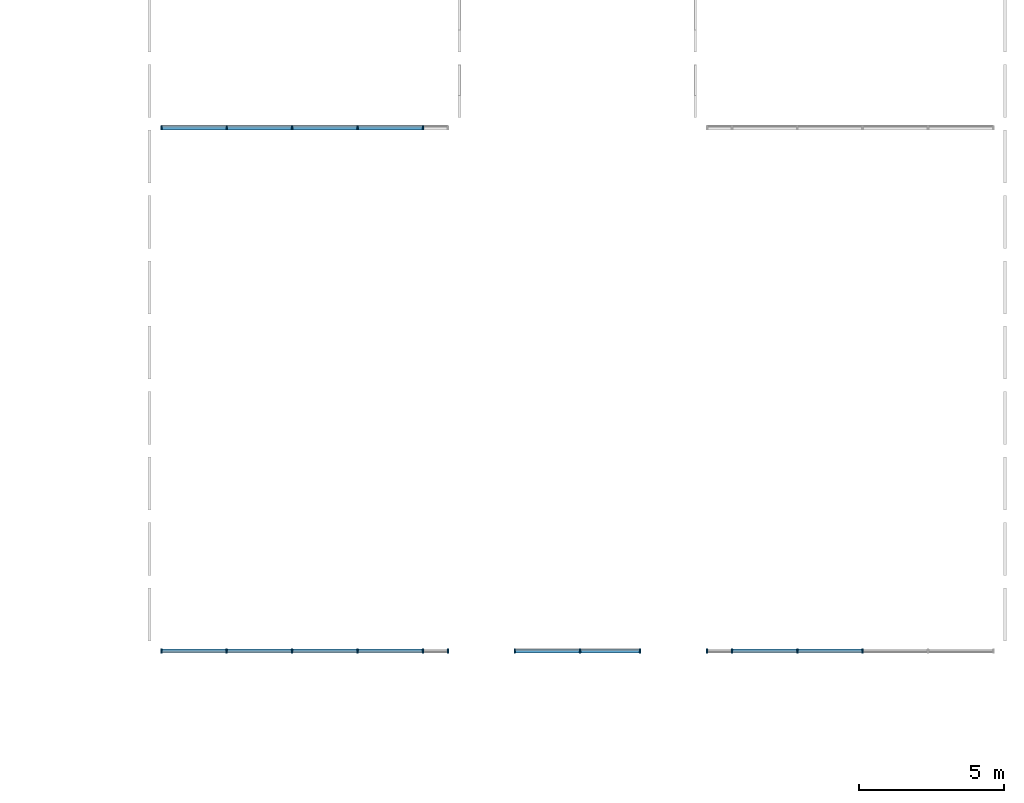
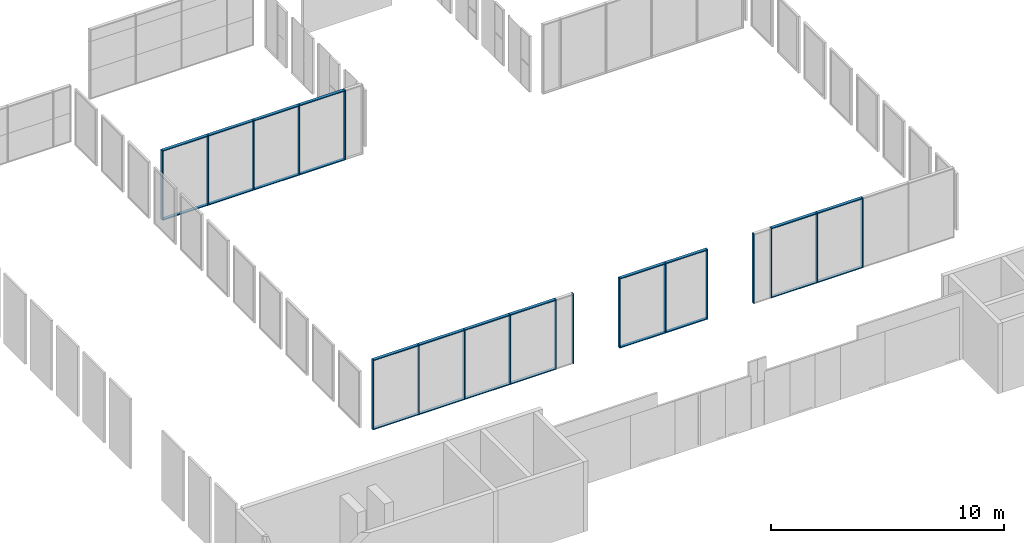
# One storey, part 1 of 15: 42 members, 4 elements without a shape of their own.
"""IFC2X3 building model written with IfcOpenShell, lengths in millimetres."""

from ifc_helpers import new_model, entity, si_unit, converted_unit, derived_unit, direction, frame, origin, origin_2d_with_axis, place, context, subcontext, project, spatial, rectangle, extrude, source, transform, mapped, material, type_object, type_shapes, element, aggregate, save


model = new_model("IFC2X3")

# Units and contexts
model_context = context("Model", 3, precision=0.01, world=origin(), true_north=direction((6.12303176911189e-17, 1.0)))
body_context = subcontext(model_context, "Body", "Model", "MODEL_VIEW")
ifc_project = project(units=[si_unit("LENGTHUNIT", "METRE", prefix="MILLI"), si_unit("AREAUNIT", "SQUARE_METRE"), si_unit("VOLUMEUNIT", "CUBIC_METRE"), converted_unit("PLANEANGLEUNIT", "DEGREE", entity("IfcRatioMeasure", 0.0174532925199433), si_unit("PLANEANGLEUNIT", "RADIAN"), dimensions=[0, 0, 0, 0, 0, 0, 0]), si_unit("MASSUNIT", "GRAM", prefix="KILO"), derived_unit("MASSDENSITYUNIT", [(si_unit("MASSUNIT", "GRAM", prefix="KILO"), 1), (si_unit("LENGTHUNIT", "METRE"), -3)]), derived_unit("MOMENTOFINERTIAUNIT", [(si_unit("LENGTHUNIT", "METRE"), 4)]), si_unit("TIMEUNIT", "SECOND"), si_unit("FREQUENCYUNIT", "HERTZ"), si_unit("THERMODYNAMICTEMPERATUREUNIT", "DEGREE_CELSIUS"), derived_unit("THERMALTRANSMITTANCEUNIT", [(si_unit("MASSUNIT", "GRAM", prefix="KILO"), 1), (si_unit("THERMODYNAMICTEMPERATUREUNIT", "KELVIN"), -1), (si_unit("TIMEUNIT", "SECOND"), -3)]), derived_unit("VOLUMETRICFLOWRATEUNIT", [(si_unit("LENGTHUNIT", "METRE"), 3), (si_unit("TIMEUNIT", "SECOND"), -1)]), si_unit("ELECTRICCURRENTUNIT", "AMPERE"), si_unit("ELECTRICVOLTAGEUNIT", "VOLT"), si_unit("POWERUNIT", "WATT"), si_unit("FORCEUNIT", "NEWTON", prefix="KILO"), si_unit("ILLUMINANCEUNIT", "LUX"), si_unit("LUMINOUSFLUXUNIT", "LUMEN"), si_unit("LUMINOUSINTENSITYUNIT", "CANDELA"), derived_unit("USERDEFINED", [(si_unit("MASSUNIT", "GRAM", prefix="KILO"), -1), (si_unit("LENGTHUNIT", "METRE"), -2), (si_unit("TIMEUNIT", "SECOND"), 3), (si_unit("LUMINOUSFLUXUNIT", "LUMEN"), 1)]), derived_unit("LINEARVELOCITYUNIT", [(si_unit("LENGTHUNIT", "METRE"), 1), (si_unit("TIMEUNIT", "SECOND"), -1)]), si_unit("PRESSUREUNIT", "PASCAL"), derived_unit("USERDEFINED", [(si_unit("LENGTHUNIT", "METRE"), -2), (si_unit("MASSUNIT", "GRAM", prefix="KILO"), 1), (si_unit("TIMEUNIT", "SECOND"), -2)]), derived_unit("LINEARFORCEUNIT", [(si_unit("MASSUNIT", "GRAM", prefix="KILO"), 1), (si_unit("LENGTHUNIT", "METRE"), 1), (si_unit("TIMEUNIT", "SECOND"), -2), (si_unit("LENGTHUNIT", "METRE"), -1)]), derived_unit("PLANARFORCEUNIT", [(si_unit("MASSUNIT", "GRAM", prefix="KILO"), 1), (si_unit("LENGTHUNIT", "METRE"), 1), (si_unit("TIMEUNIT", "SECOND"), -2), (si_unit("LENGTHUNIT", "METRE"), -2)])], contexts=[model_context])

# Site, building, storey
site_placement = place(None, frame((10627.5135316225, 21939.0796949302, 0.0)))
site = spatial("IfcSite", under=ifc_project, at=site_placement, Name="Default", CompositionType="ELEMENT")
building_placement = place(site_placement, origin())
building = spatial("IfcBuilding", under=site, at=building_placement, CompositionType="ELEMENT")
storey_placement = place(building_placement, origin())
storey = spatial("IfcBuildingStorey", under=building, at=storey_placement, Name="RDC", CompositionType="ELEMENT", Elevation=0.0)

# Curtain wall, members
curtain_wall_type_1 = type_object("IfcCurtainWallType", Name="Curtain Wall:Curtain_Wall-Empty 2", PredefinedType="NOTDEFINED")
curtain_wall_1_placement = place(storey_placement, origin())
curtain_wall_1 = element("IfcCurtainWall", 1, at=curtain_wall_1_placement, inside=storey, type_object=curtain_wall_type_1, Name="Curtain Wall:Curtain_Wall-Empty 2", ObjectType="Curtain Wall:Curtain_Wall-Empty 2")
ifc_material = material(Name="Aluminium")
member_type_1 = type_object("IfcMemberType", Name="Rectangular Mullion:50x150mm", PredefinedType="MULLION", material=ifc_material)
shared_shape_1 = source(origin(), body_context, "Body", "SweptSolid", [
    extrude(rectangle(XDim=150.0, YDim=50.0, at=origin_2d_with_axis()), frame((-25.0, 0.0, -2210.0), z_axis=(0.0, 0.0, 1.0), x_axis=(0.0, -1.0, 0.0)), (0.0, 0.0, 1.0), 2210.0000003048),
])
type_shapes(member_type_1, [shared_shape_1])
member_1_placement = place(storey_placement, frame((14435.4864686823, -10774.0796949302, 3660.0), z_axis=(1.0, 0.0, 0.0), x_axis=(0.0, 0.0, 1.0)))
member_1 = element("IfcMember", 2, at=member_1_placement, type_object=member_type_1, material=ifc_material, Name="Rectangular Mullion:50x150mm", ObjectType="Rectangular Mullion:50x150mm", context=body_context, shape_type="MappedRepresentation", body=[
    mapped(shared_shape_1, transform((0.0, 0.0, 0.0), scale=1.0)),
])
member_2_placement = place(storey_placement, frame((16695.4864686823, -10774.0796949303, 3660.0), z_axis=(1.0, 0.0, 0.0), x_axis=(0.0, 0.0, 1.0)))
member_2 = element("IfcMember", 3, at=member_2_placement, type_object=member_type_1, material=ifc_material, Name="Rectangular Mullion:50x150mm", ObjectType="Rectangular Mullion:50x150mm", context=body_context, shape_type="MappedRepresentation", body=[
    mapped(shared_shape_1, transform((0.0, 0.0, 0.0), scale=1.0)),
])
member_3_placement = place(storey_placement, frame((18955.4864686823, -10774.0796949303, 3660.0), z_axis=(1.0, 0.0, 0.0), x_axis=(0.0, 0.0, 1.0)))
member_3 = element("IfcMember", 4, at=member_3_placement, type_object=member_type_1, material=ifc_material, Name="Rectangular Mullion:50x150mm", ObjectType="Rectangular Mullion:50x150mm", context=body_context, shape_type="MappedRepresentation", body=[
    mapped(shared_shape_1, transform((0.0, 0.0, 0.0), scale=1.0)),
])
member_4_placement = place(storey_placement, frame((21215.4864686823, -10774.0796949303, 3660.0), z_axis=(1.0, 0.0, 0.0), x_axis=(0.0, 0.0, 1.0)))
member_4 = element("IfcMember", 5, at=member_4_placement, type_object=member_type_1, material=ifc_material, Name="Rectangular Mullion:50x150mm", ObjectType="Rectangular Mullion:50x150mm", context=body_context, shape_type="MappedRepresentation", body=[
    mapped(shared_shape_1, transform((0.0, 0.0, 0.0), scale=1.0)),
])
member_type_2 = type_object("IfcMemberType", Name="Rectangular Mullion:50x150mm", PredefinedType="MULLION", material=ifc_material)
shared_shape_2 = source(origin(), body_context, "Body", "SweptSolid", [
    extrude(rectangle(XDim=150.0, YDim=50.0, at=origin_2d_with_axis()), frame((-25.0, 0.0, -2210.0), z_axis=(0.0, 0.0, 1.0), x_axis=(0.0, -1.0, 0.0)), (0.0, 0.0, 1.0), 2210.0000003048),
])
type_shapes(member_type_2, [shared_shape_2])
member_5_placement = place(storey_placement, frame((12225.4864683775, -10774.0796949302, 0.0), z_axis=(-1.0, 0.0, 0.0), x_axis=(0.0, 0.0, -1.0)))
member_5 = element("IfcMember", 6, at=member_5_placement, type_object=member_type_2, material=ifc_material, Name="Rectangular Mullion:50x150mm", ObjectType="Rectangular Mullion:50x150mm", context=body_context, shape_type="MappedRepresentation", body=[
    mapped(shared_shape_2, transform((0.0, 0.0, 0.0), scale=1.0)),
])
member_6_placement = place(storey_placement, frame((14485.4864686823, -10774.0796949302, 0.0), z_axis=(-1.0, 0.0, 0.0), x_axis=(0.0, 0.0, -1.0)))
member_6 = element("IfcMember", 7, at=member_6_placement, type_object=member_type_2, material=ifc_material, Name="Rectangular Mullion:50x150mm", ObjectType="Rectangular Mullion:50x150mm", context=body_context, shape_type="MappedRepresentation", body=[
    mapped(shared_shape_2, transform((0.0, 0.0, 0.0), scale=1.0)),
])
member_7_placement = place(storey_placement, frame((16745.4864686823, -10774.0796949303, 0.0), z_axis=(-1.0, 0.0, 0.0), x_axis=(0.0, 0.0, -1.0)))
member_7 = element("IfcMember", 8, at=member_7_placement, type_object=member_type_2, material=ifc_material, Name="Rectangular Mullion:50x150mm", ObjectType="Rectangular Mullion:50x150mm", context=body_context, shape_type="MappedRepresentation", body=[
    mapped(shared_shape_2, transform((0.0, 0.0, 0.0), scale=1.0)),
])
member_8_placement = place(storey_placement, frame((19005.4864686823, -10774.0796949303, 0.0), z_axis=(-1.0, 0.0, 0.0), x_axis=(0.0, 0.0, -1.0)))
member_8 = element("IfcMember", 9, at=member_8_placement, type_object=member_type_2, material=ifc_material, Name="Rectangular Mullion:50x150mm", ObjectType="Rectangular Mullion:50x150mm", context=body_context, shape_type="MappedRepresentation", body=[
    mapped(shared_shape_2, transform((0.0, 0.0, 0.0), scale=1.0)),
])

curtain_wall_2_placement = place(storey_placement, origin())
curtain_wall_2 = element("IfcCurtainWall", 10, at=curtain_wall_2_placement, inside=storey, type_object=curtain_wall_type_1, Name="Curtain Wall:Curtain_Wall-Empty 2", ObjectType="Curtain Wall:Curtain_Wall-Empty 2")
member_type_3 = type_object("IfcMemberType", Name="Rectangular Mullion:50x150mm", PredefinedType="MULLION", material=ifc_material)
shared_shape_3 = source(origin(), body_context, "Body", "SweptSolid", [
    extrude(rectangle(XDim=150.0, YDim=50.0, at=origin_2d_with_axis()), frame((-25.0, 0.0, -2210.0), z_axis=(0.0, 0.0, 1.0), x_axis=(0.0, -1.0, 0.0)), (0.0, 0.0, 1.0), 2210.0000003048),
])
type_shapes(member_type_3, [shared_shape_3])
member_9_placement = place(storey_placement, frame((34199.4864680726, -10774.0796949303, 3660.0), z_axis=(-1.0, 0.0, 0.0), x_axis=(0.0, 0.0, 1.0)))
member_9 = element("IfcMember", 11, at=member_9_placement, type_object=member_type_3, material=ifc_material, Name="Rectangular Mullion:50x150mm", ObjectType="Rectangular Mullion:50x150mm", context=body_context, shape_type="MappedRepresentation", body=[
    mapped(shared_shape_3, transform((0.0, 0.0, 0.0), scale=1.0)),
])
member_10_placement = place(storey_placement, frame((31939.4864680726, -10774.0796949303, 3660.0), z_axis=(-1.0, 0.0, 0.0), x_axis=(0.0, 0.0, 1.0)))
member_10 = element("IfcMember", 12, at=member_10_placement, type_object=member_type_3, material=ifc_material, Name="Rectangular Mullion:50x150mm", ObjectType="Rectangular Mullion:50x150mm", context=body_context, shape_type="MappedRepresentation", body=[
    mapped(shared_shape_3, transform((0.0, 0.0, 0.0), scale=1.0)),
])
member_type_4 = type_object("IfcMemberType", Name="Rectangular Mullion:50x150mm", PredefinedType="MULLION", material=ifc_material)
shared_shape_4 = source(origin(), body_context, "Body", "SweptSolid", [
    extrude(rectangle(XDim=150.0, YDim=50.0, at=origin_2d_with_axis()), frame((-25.0, 0.0, -2210.0), z_axis=(0.0, 0.0, 1.0), x_axis=(0.0, -1.0, 0.0)), (0.0, 0.0, 1.0), 2210.0000003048),
])
type_shapes(member_type_4, [shared_shape_4])
member_11_placement = place(storey_placement, frame((36409.4864680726, -10774.0796949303, 0.0), z_axis=(1.0, 0.0, 0.0), x_axis=(0.0, 0.0, -1.0)))
member_11 = element("IfcMember", 13, at=member_11_placement, type_object=member_type_4, material=ifc_material, Name="Rectangular Mullion:50x150mm", ObjectType="Rectangular Mullion:50x150mm", context=body_context, shape_type="MappedRepresentation", body=[
    mapped(shared_shape_4, transform((0.0, 0.0, 0.0), scale=1.0)),
])
member_12_placement = place(storey_placement, frame((34149.4864680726, -10774.0796949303, 0.0), z_axis=(1.0, 0.0, 0.0), x_axis=(0.0, 0.0, -1.0)))
member_12 = element("IfcMember", 14, at=member_12_placement, type_object=member_type_4, material=ifc_material, Name="Rectangular Mullion:50x150mm", ObjectType="Rectangular Mullion:50x150mm", context=body_context, shape_type="MappedRepresentation", body=[
    mapped(shared_shape_4, transform((0.0, 0.0, 0.0), scale=1.0)),
])

curtain_wall_type_2 = type_object("IfcCurtainWallType", Name="Curtain Wall:Curtain_Wall-Empty", PredefinedType="NOTDEFINED")
curtain_wall_3_placement = place(storey_placement, origin())
curtain_wall_3 = element("IfcCurtainWall", 15, at=curtain_wall_3_placement, inside=storey, type_object=curtain_wall_type_2, Name="Curtain Wall:Curtain_Wall-Empty", ObjectType="Curtain Wall:Curtain_Wall-Empty")
member_type_5 = type_object("IfcMemberType", Name="Rectangular Mullion:50x150mm", PredefinedType="MULLION", material=ifc_material)
shared_shape_5 = source(origin(), body_context, "Body", "SweptSolid", [
    extrude(rectangle(XDim=150.0, YDim=50.0, at=origin_2d_with_axis()), frame((-25.0, 0.0, -2210.0), z_axis=(0.0, 0.0, 1.0), x_axis=(0.0, -1.0, 0.0)), (0.0, 0.0, 1.0), 2210.0),
])
type_shapes(member_type_5, [shared_shape_5])
member_13_placement = place(storey_placement, frame((14437.4864686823, 7305.92030506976, 3660.0), z_axis=(1.0, 0.0, 0.0), x_axis=(0.0, 0.0, 1.0)))
member_13 = element("IfcMember", 16, at=member_13_placement, type_object=member_type_5, material=ifc_material, Name="Rectangular Mullion:50x150mm", ObjectType="Rectangular Mullion:50x150mm", context=body_context, shape_type="MappedRepresentation", body=[
    mapped(shared_shape_5, transform((0.0, 0.0, 0.0), scale=1.0)),
])
member_14_placement = place(storey_placement, frame((16697.4864686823, 7305.92030506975, 3660.0), z_axis=(1.0, 0.0, 0.0), x_axis=(0.0, 0.0, 1.0)))
member_14 = element("IfcMember", 17, at=member_14_placement, type_object=member_type_5, material=ifc_material, Name="Rectangular Mullion:50x150mm", ObjectType="Rectangular Mullion:50x150mm", context=body_context, shape_type="MappedRepresentation", body=[
    mapped(shared_shape_5, transform((0.0, 0.0, 0.0), scale=1.0)),
])
member_15_placement = place(storey_placement, frame((18957.4864686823, 7305.92030506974, 3660.0), z_axis=(1.0, 0.0, 0.0), x_axis=(0.0, 0.0, 1.0)))
member_15 = element("IfcMember", 18, at=member_15_placement, type_object=member_type_5, material=ifc_material, Name="Rectangular Mullion:50x150mm", ObjectType="Rectangular Mullion:50x150mm", context=body_context, shape_type="MappedRepresentation", body=[
    mapped(shared_shape_5, transform((0.0, 0.0, 0.0), scale=1.0)),
])
member_16_placement = place(storey_placement, frame((21217.4864686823, 7305.92030506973, 3660.0), z_axis=(1.0, 0.0, 0.0), x_axis=(0.0, 0.0, 1.0)))
member_16 = element("IfcMember", 19, at=member_16_placement, type_object=member_type_5, material=ifc_material, Name="Rectangular Mullion:50x150mm", ObjectType="Rectangular Mullion:50x150mm", context=body_context, shape_type="MappedRepresentation", body=[
    mapped(shared_shape_5, transform((0.0, 0.0, 0.0), scale=1.0)),
])

# Curtain wall, member
curtain_wall_4_placement = place(storey_placement, origin())
curtain_wall_4 = element("IfcCurtainWall", 20, at=curtain_wall_4_placement, inside=storey, type_object=curtain_wall_type_2, Name="Curtain Wall:Curtain_Wall-Empty", ObjectType="Curtain Wall:Curtain_Wall-Empty")
member_17_placement = place(storey_placement, frame((26647.4864686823, -10774.0796949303, 3660.0), z_axis=(1.0, 0.0, 0.0), x_axis=(0.0, 0.0, 1.0)))
member_17 = element("IfcMember", 21, at=member_17_placement, type_object=member_type_5, material=ifc_material, Name="Rectangular Mullion:50x150mm", ObjectType="Rectangular Mullion:50x150mm", context=body_context, shape_type="MappedRepresentation", body=[
    mapped(shared_shape_5, transform((0.0, 0.0, 0.0), scale=1.0)),
])

# Member
member_type_6 = type_object("IfcMemberType", Name="Rectangular Mullion:50x150mm", PredefinedType="MULLION", material=ifc_material)
shared_shape_6 = source(origin(), body_context, "Body", "SweptSolid", [
    extrude(rectangle(XDim=150.0, YDim=50.0, at=origin_2d_with_axis()), frame((-25.0, 0.0, -2210.0), z_axis=(0.0, 0.0, 1.0), x_axis=(0.0, -1.0, 0.0)), (0.0, 0.0, 1.0), 2210.0000003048),
])
type_shapes(member_type_6, [shared_shape_6])
member_18_placement = place(storey_placement, frame((12227.4864683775, 7305.92030506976, 0.0), z_axis=(-1.0, 0.0, 0.0), x_axis=(0.0, 0.0, -1.0)))
member_18 = element("IfcMember", 22, at=member_18_placement, type_object=member_type_6, material=ifc_material, Name="Rectangular Mullion:50x150mm", ObjectType="Rectangular Mullion:50x150mm", context=body_context, shape_type="MappedRepresentation", body=[
    mapped(shared_shape_6, transform((0.0, 0.0, 0.0), scale=1.0)),
])

member_19_placement = place(storey_placement, frame((14487.4864686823, 7305.92030506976, 0.0), z_axis=(-1.0, 0.0, 0.0), x_axis=(0.0, 0.0, -1.0)))
member_19 = element("IfcMember", 23, at=member_19_placement, type_object=member_type_6, material=ifc_material, Name="Rectangular Mullion:50x150mm", ObjectType="Rectangular Mullion:50x150mm", context=body_context, shape_type="MappedRepresentation", body=[
    mapped(shared_shape_6, transform((0.0, 0.0, 0.0), scale=1.0)),
])

member_20_placement = place(storey_placement, frame((16747.4864686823, 7305.92030506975, 0.0), z_axis=(-1.0, 0.0, 0.0), x_axis=(0.0, 0.0, -1.0)))
member_20 = element("IfcMember", 24, at=member_20_placement, type_object=member_type_6, material=ifc_material, Name="Rectangular Mullion:50x150mm", ObjectType="Rectangular Mullion:50x150mm", context=body_context, shape_type="MappedRepresentation", body=[
    mapped(shared_shape_6, transform((0.0, 0.0, 0.0), scale=1.0)),
])

member_21_placement = place(storey_placement, frame((19007.4864686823, 7305.92030506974, 0.0), z_axis=(-1.0, 0.0, 0.0), x_axis=(0.0, 0.0, -1.0)))
member_21 = element("IfcMember", 25, at=member_21_placement, type_object=member_type_6, material=ifc_material, Name="Rectangular Mullion:50x150mm", ObjectType="Rectangular Mullion:50x150mm", context=body_context, shape_type="MappedRepresentation", body=[
    mapped(shared_shape_6, transform((0.0, 0.0, 0.0), scale=1.0)),
])

member_22_placement = place(storey_placement, frame((24437.4864683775, -10774.0796949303, 0.0), z_axis=(-1.0, 0.0, 0.0), x_axis=(0.0, 0.0, -1.0)))
member_22 = element("IfcMember", 26, at=member_22_placement, type_object=member_type_6, material=ifc_material, Name="Rectangular Mullion:50x150mm", ObjectType="Rectangular Mullion:50x150mm", context=body_context, shape_type="MappedRepresentation", body=[
    mapped(shared_shape_6, transform((0.0, 0.0, 0.0), scale=1.0)),
])

member_type_7 = type_object("IfcMemberType", Name="Rectangular Mullion:50x150mm", PredefinedType="MULLION", material=ifc_material)
shared_shape_7 = source(origin(), body_context, "Body", "SweptSolid", [
    extrude(rectangle(XDim=150.0, YDim=50.0, at=origin_2d_with_axis()), frame((-25.0, 0.0, -3660.0), z_axis=(0.0, 0.0, 1.0), x_axis=(0.0, -1.0, 0.0)), (0.0, 0.0, 1.0), 3660.0),
])
type_shapes(member_type_7, [shared_shape_7])
member_23_placement = place(storey_placement, frame((28769.4864683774, -10774.0796949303, 0.0), z_axis=(0.0, 0.0, -1.0), x_axis=(1.0, 0.0, 0.0)))
member_23 = element("IfcMember", 27, at=member_23_placement, type_object=member_type_7, material=ifc_material, Name="Rectangular Mullion:50x150mm", ObjectType="Rectangular Mullion:50x150mm", context=body_context, shape_type="MappedRepresentation", body=[
    mapped(shared_shape_7, transform((0.0, 0.0, 0.0), scale=1.0)),
])

member_type_8 = type_object("IfcMemberType", Name="Rectangular Mullion:50x150mm", PredefinedType="MULLION", material=ifc_material)
shared_shape_8 = source(origin(), body_context, "Body", "SweptSolid", [
    extrude(rectangle(XDim=150.0, YDim=50.0, at=origin_2d_with_axis()), frame((-25.0, 0.0, -3660.0), z_axis=(0.0, 0.0, 1.0), x_axis=(0.0, -1.0, 0.0)), (0.0, 0.0, 1.0), 3660.0),
])
type_shapes(member_type_8, [shared_shape_8])
member_24_placement = place(storey_placement, frame((12177.4864683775, 7305.92030506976, 3660.0), z_axis=(0.0, 0.0, 1.0), x_axis=(-1.0, 0.0, 0.0)))
member_24 = element("IfcMember", 28, at=member_24_placement, type_object=member_type_8, material=ifc_material, Name="Rectangular Mullion:50x150mm", ObjectType="Rectangular Mullion:50x150mm", context=body_context, shape_type="MappedRepresentation", body=[
    mapped(shared_shape_8, transform((0.0, 0.0, 0.0), scale=1.0)),
])

member_25_placement = place(storey_placement, frame((24387.4864683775, -10774.0796949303, 3660.0), z_axis=(0.0, 0.0, 1.0), x_axis=(-1.0, 0.0, 0.0)))
member_25 = element("IfcMember", 29, at=member_25_placement, type_object=member_type_8, material=ifc_material, Name="Rectangular Mullion:50x150mm", ObjectType="Rectangular Mullion:50x150mm", context=body_context, shape_type="MappedRepresentation", body=[
    mapped(shared_shape_8, transform((0.0, 0.0, 0.0), scale=1.0)),
])

member_type_9 = type_object("IfcMemberType", Name="Rectangular Mullion:50x150mm", PredefinedType="MULLION", material=ifc_material)
shared_shape_9 = source(origin(), body_context, "Body", "SweptSolid", [
    extrude(rectangle(XDim=150.0, YDim=50.0, at=origin_2d_with_axis()), frame((0.0, 0.0, -3660.0), z_axis=(0.0, 0.0, 1.0), x_axis=(0.0, -1.0, 0.0)), (0.0, 0.0, 1.0), 3660.0),
])
type_shapes(member_type_9, [shared_shape_9])
member_26_placement = place(storey_placement, frame((14462.4864686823, 7305.92030506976, 0.0), z_axis=(0.0, 0.0, -1.0), x_axis=(1.0, 0.0, 0.0)))
member_26 = element("IfcMember", 30, at=member_26_placement, type_object=member_type_9, material=ifc_material, Name="Rectangular Mullion:50x150mm", ObjectType="Rectangular Mullion:50x150mm", context=body_context, shape_type="MappedRepresentation", body=[
    mapped(shared_shape_9, transform((0.0, 0.0, 0.0), scale=1.0)),
])

member_27_placement = place(storey_placement, frame((16722.4864686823, 7305.92030506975, 0.0), z_axis=(0.0, 0.0, -1.0), x_axis=(1.0, 0.0, 0.0)))
member_27 = element("IfcMember", 31, at=member_27_placement, type_object=member_type_9, material=ifc_material, Name="Rectangular Mullion:50x150mm", ObjectType="Rectangular Mullion:50x150mm", context=body_context, shape_type="MappedRepresentation", body=[
    mapped(shared_shape_9, transform((0.0, 0.0, 0.0), scale=1.0)),
])

member_28_placement = place(storey_placement, frame((18982.4864686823, 7305.92030506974, 0.0), z_axis=(0.0, 0.0, -1.0), x_axis=(1.0, 0.0, 0.0)))
member_28 = element("IfcMember", 32, at=member_28_placement, type_object=member_type_9, material=ifc_material, Name="Rectangular Mullion:50x150mm", ObjectType="Rectangular Mullion:50x150mm", context=body_context, shape_type="MappedRepresentation", body=[
    mapped(shared_shape_9, transform((0.0, 0.0, 0.0), scale=1.0)),
])

member_29_placement = place(storey_placement, frame((21242.4864686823, 7305.92030506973, 0.0), z_axis=(0.0, 0.0, -1.0), x_axis=(1.0, 0.0, 0.0)))
member_29 = element("IfcMember", 33, at=member_29_placement, type_object=member_type_9, material=ifc_material, Name="Rectangular Mullion:50x150mm", ObjectType="Rectangular Mullion:50x150mm", context=body_context, shape_type="MappedRepresentation", body=[
    mapped(shared_shape_9, transform((0.0, 0.0, 0.0), scale=1.0)),
])

aggregate(curtain_wall_3, [member_13, member_14, member_15, member_16, member_18, member_19, member_20, member_21, member_24, member_26, member_27, member_28, member_29])

member_30_placement = place(storey_placement, frame((26672.4864686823, -10774.0796949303, 0.0), z_axis=(0.0, 0.0, -1.0), x_axis=(1.0, 0.0, 0.0)))
member_30 = element("IfcMember", 34, at=member_30_placement, type_object=member_type_9, material=ifc_material, Name="Rectangular Mullion:50x150mm", ObjectType="Rectangular Mullion:50x150mm", context=body_context, shape_type="MappedRepresentation", body=[
    mapped(shared_shape_9, transform((0.0, 0.0, 0.0), scale=1.0)),
])

member_type_10 = type_object("IfcMemberType", Name="Rectangular Mullion:50x150mm", PredefinedType="MULLION", material=ifc_material)
shared_shape_10 = source(origin(), body_context, "Body", "SweptSolid", [
    extrude(rectangle(XDim=150.0, YDim=50.0, at=origin_2d_with_axis()), frame((-25.0, 0.0, -2022.0), z_axis=(0.0, 0.0, 1.0), x_axis=(0.0, -1.0, 0.0)), (0.0, 0.0, 1.0), 2021.99999969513),
])
type_shapes(member_type_10, [shared_shape_10])
member_31_placement = place(storey_placement, frame((28719.4864683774, -10774.0796949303, 3660.0), z_axis=(1.0, 0.0, 0.0), x_axis=(0.0, 0.0, 1.0)))
member_31 = element("IfcMember", 35, at=member_31_placement, type_object=member_type_10, material=ifc_material, Name="Rectangular Mullion:50x150mm", ObjectType="Rectangular Mullion:50x150mm", context=body_context, shape_type="MappedRepresentation", body=[
    mapped(shared_shape_10, transform((0.0, 0.0, 0.0), scale=1.0)),
])

member_type_11 = type_object("IfcMemberType", Name="Rectangular Mullion:50x150mm", PredefinedType="MULLION", material=ifc_material)
shared_shape_11 = source(origin(), body_context, "Body", "SweptSolid", [
    extrude(rectangle(XDim=150.0, YDim=50.0, at=origin_2d_with_axis()), frame((-25.0, 0.0, -2022.0), z_axis=(0.0, 0.0, 1.0), x_axis=(0.0, -1.0, 0.0)), (0.0, 0.0, 1.0), 2021.99999969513),
])
type_shapes(member_type_11, [shared_shape_11])
member_32_placement = place(storey_placement, frame((26697.4864686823, -10774.0796949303, 0.0), z_axis=(-1.0, 0.0, 0.0), x_axis=(0.0, 0.0, -1.0)))
member_32 = element("IfcMember", 36, at=member_32_placement, type_object=member_type_11, material=ifc_material, Name="Rectangular Mullion:50x150mm", ObjectType="Rectangular Mullion:50x150mm", context=body_context, shape_type="MappedRepresentation", body=[
    mapped(shared_shape_11, transform((0.0, 0.0, 0.0), scale=1.0)),
])

aggregate(curtain_wall_4, [member_31, member_17, member_22, member_32, member_23, member_25, member_30])

member_type_12 = type_object("IfcMemberType", Name="Rectangular Mullion:50x150mm", PredefinedType="MULLION", material=ifc_material)
shared_shape_12 = source(origin(), body_context, "Body", "SweptSolid", [
    extrude(rectangle(XDim=150.0, YDim=50.0, at=origin_2d_with_axis()), frame((-25.0, 0.0, -3660.0), z_axis=(0.0, 0.0, 1.0), x_axis=(0.0, -1.0, 0.0)), (0.0, 0.0, 1.0), 3660.0),
])
type_shapes(member_type_12, [shared_shape_12])
member_33_placement = place(storey_placement, frame((22129.4864683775, -10774.0796949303, 0.0), z_axis=(0.0, 0.0, -1.0), x_axis=(1.0, 0.0, 0.0)))
member_33 = element("IfcMember", 37, at=member_33_placement, type_object=member_type_12, material=ifc_material, Name="Rectangular Mullion:50x150mm", ObjectType="Rectangular Mullion:50x150mm", context=body_context, shape_type="MappedRepresentation", body=[
    mapped(shared_shape_12, transform((0.0, 0.0, 0.0), scale=1.0)),
])

member_type_13 = type_object("IfcMemberType", Name="Rectangular Mullion:50x150mm", PredefinedType="MULLION", material=ifc_material)
shared_shape_13 = source(origin(), body_context, "Body", "SweptSolid", [
    extrude(rectangle(XDim=150.0, YDim=50.0, at=origin_2d_with_axis()), frame((-25.0, 0.0, -3660.0), z_axis=(0.0, 0.0, 1.0), x_axis=(0.0, -1.0, 0.0)), (0.0, 0.0, 1.0), 3660.0),
])
type_shapes(member_type_13, [shared_shape_13])
member_34_placement = place(storey_placement, frame((12175.4864683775, -10774.0796949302, 3660.0), z_axis=(0.0, 0.0, 1.0), x_axis=(-1.0, 0.0, 0.0)))
member_34 = element("IfcMember", 38, at=member_34_placement, type_object=member_type_13, material=ifc_material, Name="Rectangular Mullion:50x150mm", ObjectType="Rectangular Mullion:50x150mm", context=body_context, shape_type="MappedRepresentation", body=[
    mapped(shared_shape_13, transform((0.0, 0.0, 0.0), scale=1.0)),
])

member_type_14 = type_object("IfcMemberType", Name="Rectangular Mullion:50x150mm", PredefinedType="MULLION", material=ifc_material)
shared_shape_14 = source(origin(), body_context, "Body", "SweptSolid", [
    extrude(rectangle(XDim=150.0, YDim=50.0, at=origin_2d_with_axis()), frame((0.0, 0.0, -3660.0), z_axis=(0.0, 0.0, 1.0), x_axis=(0.0, -1.0, 0.0)), (0.0, 0.0, 1.0), 3660.0),
])
type_shapes(member_type_14, [shared_shape_14])
member_35_placement = place(storey_placement, frame((14460.4864686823, -10774.0796949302, 0.0), z_axis=(0.0, 0.0, -1.0), x_axis=(1.0, 0.0, 0.0)))
member_35 = element("IfcMember", 39, at=member_35_placement, type_object=member_type_14, material=ifc_material, Name="Rectangular Mullion:50x150mm", ObjectType="Rectangular Mullion:50x150mm", context=body_context, shape_type="MappedRepresentation", body=[
    mapped(shared_shape_14, transform((0.0, 0.0, 0.0), scale=1.0)),
])

member_36_placement = place(storey_placement, frame((16720.4864686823, -10774.0796949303, 0.0), z_axis=(0.0, 0.0, -1.0), x_axis=(1.0, 0.0, 0.0)))
member_36 = element("IfcMember", 40, at=member_36_placement, type_object=member_type_14, material=ifc_material, Name="Rectangular Mullion:50x150mm", ObjectType="Rectangular Mullion:50x150mm", context=body_context, shape_type="MappedRepresentation", body=[
    mapped(shared_shape_14, transform((0.0, 0.0, 0.0), scale=1.0)),
])

member_37_placement = place(storey_placement, frame((18980.4864686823, -10774.0796949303, 0.0), z_axis=(0.0, 0.0, -1.0), x_axis=(1.0, 0.0, 0.0)))
member_37 = element("IfcMember", 41, at=member_37_placement, type_object=member_type_14, material=ifc_material, Name="Rectangular Mullion:50x150mm", ObjectType="Rectangular Mullion:50x150mm", context=body_context, shape_type="MappedRepresentation", body=[
    mapped(shared_shape_14, transform((0.0, 0.0, 0.0), scale=1.0)),
])

member_38_placement = place(storey_placement, frame((21240.4864686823, -10774.0796949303, 0.0), z_axis=(0.0, 0.0, -1.0), x_axis=(1.0, 0.0, 0.0)))
member_38 = element("IfcMember", 42, at=member_38_placement, type_object=member_type_14, material=ifc_material, Name="Rectangular Mullion:50x150mm", ObjectType="Rectangular Mullion:50x150mm", context=body_context, shape_type="MappedRepresentation", body=[
    mapped(shared_shape_14, transform((0.0, 0.0, 0.0), scale=1.0)),
])

aggregate(curtain_wall_1, [member_1, member_2, member_3, member_4, member_5, member_6, member_7, member_8, member_33, member_34, member_35, member_36, member_37, member_38])

member_type_15 = type_object("IfcMemberType", Name="Rectangular Mullion:50x150mm", PredefinedType="MULLION", material=ifc_material)
shared_shape_15 = source(origin(), body_context, "Body", "SweptSolid", [
    extrude(rectangle(XDim=150.0, YDim=50.0, at=origin_2d_with_axis()), frame((-25.0, 0.0, -3660.0), z_axis=(0.0, 0.0, 1.0), x_axis=(0.0, -1.0, 0.0)), (0.0, 0.0, 1.0), 3660.0),
])
type_shapes(member_type_15, [shared_shape_15])
member_39_placement = place(storey_placement, frame((31025.4864683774, -10774.0796949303, 0.0), z_axis=(0.0, 0.0, -1.0), x_axis=(-1.0, 0.0, 0.0)))
member_39 = element("IfcMember", 43, at=member_39_placement, type_object=member_type_15, material=ifc_material, Name="Rectangular Mullion:50x150mm", ObjectType="Rectangular Mullion:50x150mm", context=body_context, shape_type="MappedRepresentation", body=[
    mapped(shared_shape_15, transform((0.0, 0.0, 0.0), scale=1.0)),
])

member_type_16 = type_object("IfcMemberType", Name="Rectangular Mullion:50x150mm", PredefinedType="MULLION", material=ifc_material)
shared_shape_16 = source(origin(), body_context, "Body", "SweptSolid", [
    extrude(rectangle(XDim=150.0, YDim=50.0, at=origin_2d_with_axis()), frame((0.0, 0.0, -3660.0), z_axis=(0.0, 0.0, 1.0), x_axis=(0.0, -1.0, 0.0)), (0.0, 0.0, 1.0), 3660.0),
])
type_shapes(member_type_16, [shared_shape_16])
member_40_placement = place(storey_placement, frame((36434.4864680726, -10774.0796949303, 0.0), z_axis=(0.0, 0.0, -1.0), x_axis=(-1.0, 0.0, 0.0)))
member_40 = element("IfcMember", 44, at=member_40_placement, type_object=member_type_16, material=ifc_material, Name="Rectangular Mullion:50x150mm", ObjectType="Rectangular Mullion:50x150mm", context=body_context, shape_type="MappedRepresentation", body=[
    mapped(shared_shape_16, transform((0.0, 0.0, 0.0), scale=1.0)),
])

member_41_placement = place(storey_placement, frame((34174.4864680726, -10774.0796949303, 0.0), z_axis=(0.0, 0.0, -1.0), x_axis=(-1.0, 0.0, 0.0)))
member_41 = element("IfcMember", 45, at=member_41_placement, type_object=member_type_16, material=ifc_material, Name="Rectangular Mullion:50x150mm", ObjectType="Rectangular Mullion:50x150mm", context=body_context, shape_type="MappedRepresentation", body=[
    mapped(shared_shape_16, transform((0.0, 0.0, 0.0), scale=1.0)),
])

member_42_placement = place(storey_placement, frame((31914.4864680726, -10774.0796949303, 0.0), z_axis=(0.0, 0.0, -1.0), x_axis=(-1.0, 0.0, 0.0)))
member_42 = element("IfcMember", 46, at=member_42_placement, type_object=member_type_16, material=ifc_material, Name="Rectangular Mullion:50x150mm", ObjectType="Rectangular Mullion:50x150mm", context=body_context, shape_type="MappedRepresentation", body=[
    mapped(shared_shape_16, transform((0.0, 0.0, 0.0), scale=1.0)),
])

aggregate(curtain_wall_2, [member_9, member_10, member_11, member_12, member_39, member_40, member_41, member_42])

save(model, "model.ifc")
